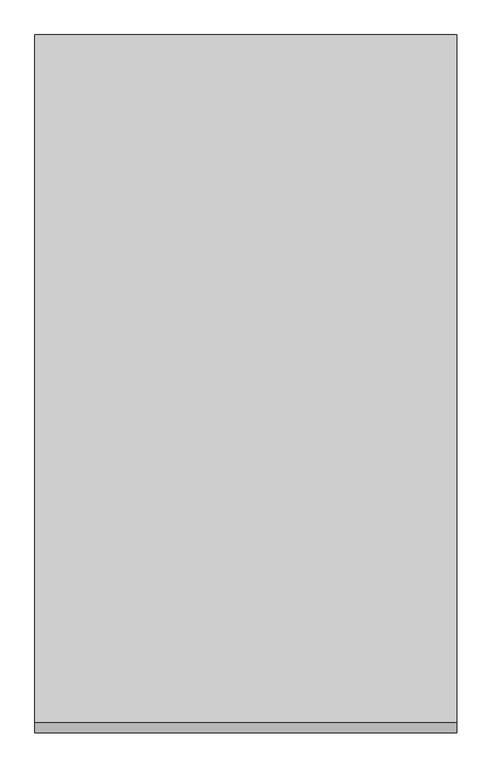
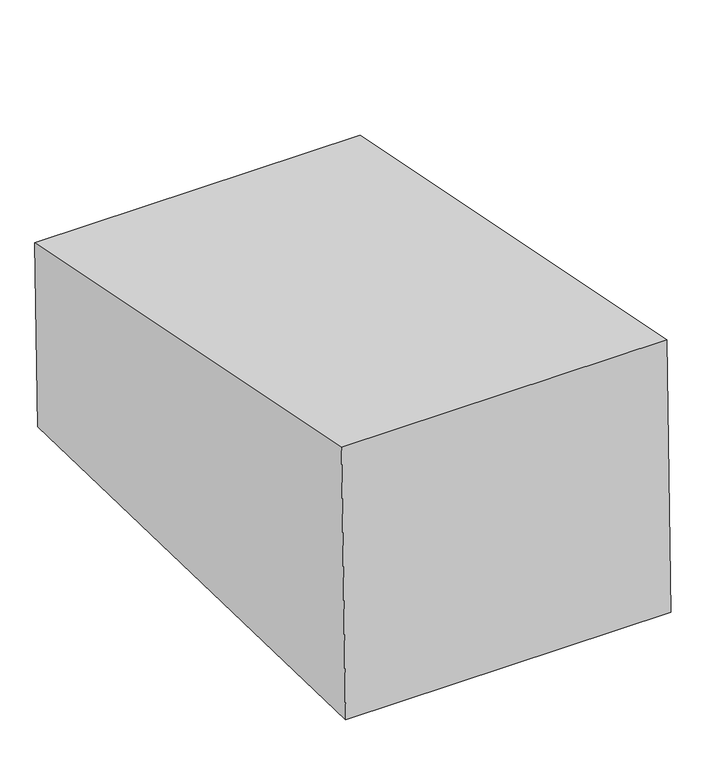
"""IFC4 building model written with IfcOpenShell, lengths in millimetres: proxy geometry, Excavation FamilySP : Excavation FamilySP."""

from ifc_helpers import new_model, si_unit, frame, origin, place, context, project, spatial, polyline, outline, extrude, source, transform, mapped, element, save


def generic_models_15930065(model_context):
    return source(origin(), model_context, "Body", "SweptSolid", [
        extrude(outline(polyline([(47.1143159, 1792.6212467), (0.0, 0.0), (-4998.2739957, 131.3664335), (-4928.5174986, 2785.4849632), (47.1143159, 1792.6212467)])), frame((-1524.0, 0.0, 0.0), z_axis=(1.0, 0.0, 0.0), x_axis=(0.0, 1.0, 0.0)), (0.0, 0.0, 1.0), 3048.0),
    ])


if __name__ == "__main__":
    model = new_model("IFC4")
    model_context = context("Model", 3, world=origin())
    ifc_project = project(units=[si_unit("LENGTHUNIT", "METRE", prefix="MILLI")], contexts=[model_context])
    site = spatial("IfcSite", under=ifc_project)
    building = spatial("IfcBuilding", under=site)
    placement = place(None, origin())
    generic_models_shape = generic_models_15930065(model_context)
    element("IfcBuildingElementProxy", 1, Name="Excavation FamilySP : Excavation FamilySP", ObjectType="Excavation FamilySP : Excavation FamilySP", at=placement, inside=building, context=model_context, shape_type="MappedRepresentation", body=[
        mapped(generic_models_shape, transform((0.0, 0.0, 0.0), x_axis=(1.0, 0.0, 0.0), y_axis=(0.0, 1.0, 0.0), z_axis=(0.0, 0.0, 1.0))),
    ])
    save(model, "model.ifc")
